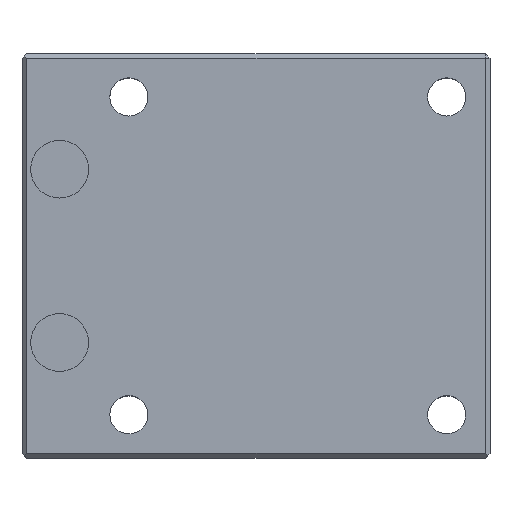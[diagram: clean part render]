
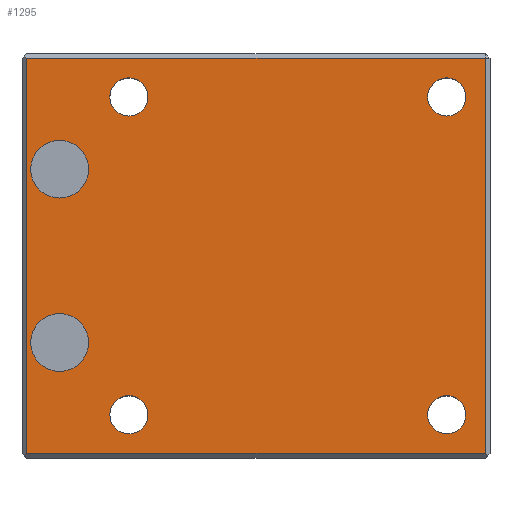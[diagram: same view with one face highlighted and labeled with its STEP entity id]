
A CAD part, top view. The second image highlights one B-rep face of the part: STEP entity #1295.
In plain terms, the highlighted planar face has unit normal (0, 0, 1).
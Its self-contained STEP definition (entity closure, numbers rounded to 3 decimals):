
#1 = ORIENTED_EDGE ( 'NONE', *, *, #1079, .F. ) ;
#12 = ORIENTED_EDGE ( 'NONE', *, *, #1841, .F. ) ;
#22 = CARTESIAN_POINT ( 'NONE',  ( 34.2, 34.2, 98. ) ) ;
#23 = ORIENTED_EDGE ( 'NONE', *, *, #1335, .F. ) ;
#27 = ORIENTED_EDGE ( 'NONE', *, *, #783, .F. ) ;
#34 = VERTEX_POINT ( 'NONE', #22 ) ;
#49 = CARTESIAN_POINT ( 'NONE',  ( -30.8, 27.5, 98. ) ) ;
#52 = EDGE_LOOP ( 'NONE', ( #12, #1 ) ) ;
#54 = FACE_BOUND ( 'NONE', #811, .T. ) ;
#77 = VERTEX_POINT ( 'NONE', #49 ) ;
#84 = CARTESIAN_POINT ( 'NONE',  ( 27.5, 27.5, 98. ) ) ;
#97 = AXIS2_PLACEMENT_3D ( 'NONE', #953, #790, #1450 ) ;
#107 = DIRECTION ( 'NONE',  ( 1., 0., 0. ) ) ;
#127 = AXIS2_PLACEMENT_3D ( 'NONE', #748, #1888, #2049 ) ;
#129 = DIRECTION ( 'NONE',  ( 0., 0., 1. ) ) ;
#138 = DIRECTION ( 'NONE',  ( 0., 0., 1. ) ) ;
#153 = DIRECTION ( 'NONE',  ( 0., 1., 0. ) ) ;
#158 = DIRECTION ( 'NONE',  ( 1., 0., 0. ) ) ;
#170 = CIRCLE ( 'NONE', #97, 3.3 ) ;
#182 = VERTEX_POINT ( 'NONE', #233 ) ;
#213 = EDGE_CURVE ( 'NONE', #1534, #1306, #2119, .T. ) ;
#233 = CARTESIAN_POINT ( 'NONE',  ( -45.2, -34.2, 98. ) ) ;
#244 = ORIENTED_EDGE ( 'NONE', *, *, #794, .T. ) ;
#245 = CARTESIAN_POINT ( 'NONE',  ( -34.5, -15., 98. ) ) ;
#248 = ORIENTED_EDGE ( 'NONE', *, *, #355, .F. ) ;
#279 = VERTEX_POINT ( 'NONE', #1783 ) ;
#287 = CIRCLE ( 'NONE', #1156, 3.3 ) ;
#291 = CARTESIAN_POINT ( 'NONE',  ( -39.5, 15., 98. ) ) ;
#297 = CARTESIAN_POINT ( 'NONE',  ( -27.5, 27.5, 98. ) ) ;
#299 = DIRECTION ( 'NONE',  ( 0., 0., 1. ) ) ;
#317 = EDGE_CURVE ( 'NONE', #1306, #1534, #1112, .T. ) ;
#321 = CIRCLE ( 'NONE', #1529, 3.3 ) ;
#355 = EDGE_CURVE ( 'NONE', #600, #77, #904, .T. ) ;
#360 = AXIS2_PLACEMENT_3D ( 'NONE', #2038, #1033, #1554 ) ;
#434 = CARTESIAN_POINT ( 'NONE',  ( -45.2, 34.2, 98. ) ) ;
#436 = VERTEX_POINT ( 'NONE', #523 ) ;
#441 = CARTESIAN_POINT ( 'NONE',  ( -24.2, 27.5, 98. ) ) ;
#451 = CARTESIAN_POINT ( 'NONE',  ( -44.5, -15., 98. ) ) ;
#506 = CARTESIAN_POINT ( 'NONE',  ( -27.5, -27.5, 98. ) ) ;
#515 = EDGE_LOOP ( 'NONE', ( #1904, #1507 ) ) ;
#523 = CARTESIAN_POINT ( 'NONE',  ( -44.5, 15., 98. ) ) ;
#535 = ORIENTED_EDGE ( 'NONE', *, *, #1613, .F. ) ;
#561 = AXIS2_PLACEMENT_3D ( 'NONE', #1788, #129, #1417 ) ;
#595 = DIRECTION ( 'NONE',  ( 1., 0., 0. ) ) ;
#600 = VERTEX_POINT ( 'NONE', #441 ) ;
#615 = DIRECTION ( 'NONE',  ( 1., 0., 0. ) ) ;
#638 = CARTESIAN_POINT ( 'NONE',  ( 30.8, -27.5, 98. ) ) ;
#651 = DIRECTION ( 'NONE',  ( 0., 0., 1. ) ) ;
#700 = DIRECTION ( 'NONE',  ( 0., 0., 1. ) ) ;
#718 = PLANE ( 'NONE',  #911 ) ;
#731 = DIRECTION ( 'NONE',  ( 0., 0., 1. ) ) ;
#741 = AXIS2_PLACEMENT_3D ( 'NONE', #291, #1242, #107 ) ;
#748 = CARTESIAN_POINT ( 'NONE',  ( -39.5, 15., 98. ) ) ;
#783 = EDGE_CURVE ( 'NONE', #77, #600, #321, .T. ) ;
#790 = DIRECTION ( 'NONE',  ( 0., 0., 1. ) ) ;
#794 = EDGE_CURVE ( 'NONE', #1467, #182, #1874, .T. ) ;
#811 = EDGE_LOOP ( 'NONE', ( #248, #27 ) ) ;
#820 = CIRCLE ( 'NONE', #360, 3.3 ) ;
#822 = VERTEX_POINT ( 'NONE', #1406 ) ;
#823 = EDGE_CURVE ( 'NONE', #1490, #436, #1702, .T. ) ;
#841 = ORIENTED_EDGE ( 'NONE', *, *, #2016, .T. ) ;
#862 = ORIENTED_EDGE ( 'NONE', *, *, #1385, .F. ) ;
#873 = VECTOR ( 'NONE', #1899, 1000. ) ;
#888 = FACE_OUTER_BOUND ( 'NONE', #951, .T. ) ;
#904 = CIRCLE ( 'NONE', #2047, 3.3 ) ;
#911 = AXIS2_PLACEMENT_3D ( 'NONE', #1043, #700, #1545 ) ;
#917 = CARTESIAN_POINT ( 'NONE',  ( 34.2, 35., 98. ) ) ;
#930 = CARTESIAN_POINT ( 'NONE',  ( -39.5, -15., 98. ) ) ;
#933 = CARTESIAN_POINT ( 'NONE',  ( -30.8, -27.5, 98. ) ) ;
#951 = EDGE_LOOP ( 'NONE', ( #244, #1448, #1548, #841 ) ) ;
#953 = CARTESIAN_POINT ( 'NONE',  ( 27.5, -27.5, 98. ) ) ;
#973 = AXIS2_PLACEMENT_3D ( 'NONE', #1375, #1236, #2033 ) ;
#1012 = VECTOR ( 'NONE', #595, 1000. ) ;
#1033 = DIRECTION ( 'NONE',  ( 0., 0., 1. ) ) ;
#1038 = AXIS2_PLACEMENT_3D ( 'NONE', #930, #1588, #158 ) ;
#1043 = CARTESIAN_POINT ( 'NONE',  ( 0., 0., 98. ) ) ;
#1073 = LINE ( 'NONE', #917, #1684 ) ;
#1076 = EDGE_LOOP ( 'NONE', ( #23, #1628 ) ) ;
#1077 = CARTESIAN_POINT ( 'NONE',  ( -45.2, -34.2, 98. ) ) ;
#1079 = EDGE_CURVE ( 'NONE', #1337, #822, #287, .T. ) ;
#1086 = VECTOR ( 'NONE', #1926, 1000. ) ;
#1105 = VERTEX_POINT ( 'NONE', #1508 ) ;
#1112 = CIRCLE ( 'NONE', #1038, 5. ) ;
#1156 = AXIS2_PLACEMENT_3D ( 'NONE', #506, #651, #1635 ) ;
#1236 = DIRECTION ( 'NONE',  ( 0., 0., 1. ) ) ;
#1242 = DIRECTION ( 'NONE',  ( 0., 0., 1. ) ) ;
#1245 = DIRECTION ( 'NONE',  ( 1., 0., 0. ) ) ;
#1281 = ORIENTED_EDGE ( 'NONE', *, *, #1408, .F. ) ;
#1283 = CARTESIAN_POINT ( 'NONE',  ( -46., 34.2, 98. ) ) ;
#1295 = ADVANCED_FACE ( 'NONE', ( #1403, #1368, #1524, #1871, #2069, #54, #888 ), #718, .T. ) ;
#1306 = VERTEX_POINT ( 'NONE', #245 ) ;
#1307 = EDGE_CURVE ( 'NONE', #1709, #279, #1504, .T. ) ;
#1335 = EDGE_CURVE ( 'NONE', #279, #1709, #1565, .T. ) ;
#1337 = VERTEX_POINT ( 'NONE', #933 ) ;
#1356 = AXIS2_PLACEMENT_3D ( 'NONE', #84, #731, #1392 ) ;
#1368 = FACE_BOUND ( 'NONE', #515, .T. ) ;
#1375 = CARTESIAN_POINT ( 'NONE',  ( -39.5, -15., 98. ) ) ;
#1385 = EDGE_CURVE ( 'NONE', #1478, #1718, #1678, .T. ) ;
#1392 = DIRECTION ( 'NONE',  ( 1., 0., 0. ) ) ;
#1400 = EDGE_CURVE ( 'NONE', #182, #1105, #2111, .T. ) ;
#1403 = FACE_BOUND ( 'NONE', #1779, .T. ) ;
#1406 = CARTESIAN_POINT ( 'NONE',  ( -24.2, -27.5, 98. ) ) ;
#1408 = EDGE_CURVE ( 'NONE', #436, #1490, #1740, .T. ) ;
#1417 = DIRECTION ( 'NONE',  ( 1., 0., 0. ) ) ;
#1448 = ORIENTED_EDGE ( 'NONE', *, *, #1400, .T. ) ;
#1450 = DIRECTION ( 'NONE',  ( 1., 0., 0. ) ) ;
#1467 = VERTEX_POINT ( 'NONE', #434 ) ;
#1478 = VERTEX_POINT ( 'NONE', #638 ) ;
#1483 = CARTESIAN_POINT ( 'NONE',  ( 24.2, 27.5, 98. ) ) ;
#1490 = VERTEX_POINT ( 'NONE', #1800 ) ;
#1504 = CIRCLE ( 'NONE', #1356, 3.3 ) ;
#1507 = ORIENTED_EDGE ( 'NONE', *, *, #213, .F. ) ;
#1508 = CARTESIAN_POINT ( 'NONE',  ( 34.2, -34.2, 98. ) ) ;
#1510 = CARTESIAN_POINT ( 'NONE',  ( -27.5, 27.5, 98. ) ) ;
#1524 = FACE_BOUND ( 'NONE', #52, .T. ) ;
#1529 = AXIS2_PLACEMENT_3D ( 'NONE', #1510, #1571, #1245 ) ;
#1534 = VERTEX_POINT ( 'NONE', #451 ) ;
#1545 = DIRECTION ( 'NONE',  ( 1., 0., 0. ) ) ;
#1548 = ORIENTED_EDGE ( 'NONE', *, *, #1945, .T. ) ;
#1554 = DIRECTION ( 'NONE',  ( 1., 0., 0. ) ) ;
#1565 = CIRCLE ( 'NONE', #2125, 3.3 ) ;
#1571 = DIRECTION ( 'NONE',  ( 0., 0., 1. ) ) ;
#1575 = CARTESIAN_POINT ( 'NONE',  ( 34.2, -34.2, 98. ) ) ;
#1588 = DIRECTION ( 'NONE',  ( 0., 0., 1. ) ) ;
#1609 = LINE ( 'NONE', #1283, #1086 ) ;
#1613 = EDGE_CURVE ( 'NONE', #1718, #1478, #170, .T. ) ;
#1628 = ORIENTED_EDGE ( 'NONE', *, *, #1307, .F. ) ;
#1635 = DIRECTION ( 'NONE',  ( 1., 0., 0. ) ) ;
#1651 = CARTESIAN_POINT ( 'NONE',  ( 24.2, -27.5, 98. ) ) ;
#1678 = CIRCLE ( 'NONE', #561, 3.3 ) ;
#1684 = VECTOR ( 'NONE', #153, 1000. ) ;
#1702 = CIRCLE ( 'NONE', #127, 5. ) ;
#1709 = VERTEX_POINT ( 'NONE', #1483 ) ;
#1718 = VERTEX_POINT ( 'NONE', #1651 ) ;
#1728 = EDGE_LOOP ( 'NONE', ( #862, #535 ) ) ;
#1740 = CIRCLE ( 'NONE', #741, 5. ) ;
#1761 = CARTESIAN_POINT ( 'NONE',  ( 27.5, 27.5, 98. ) ) ;
#1779 = EDGE_LOOP ( 'NONE', ( #1889, #1281 ) ) ;
#1783 = CARTESIAN_POINT ( 'NONE',  ( 30.8, 27.5, 98. ) ) ;
#1788 = CARTESIAN_POINT ( 'NONE',  ( 27.5, -27.5, 98. ) ) ;
#1800 = CARTESIAN_POINT ( 'NONE',  ( -34.5, 15., 98. ) ) ;
#1841 = EDGE_CURVE ( 'NONE', #822, #1337, #820, .T. ) ;
#1871 = FACE_BOUND ( 'NONE', #1076, .T. ) ;
#1874 = LINE ( 'NONE', #1077, #873 ) ;
#1888 = DIRECTION ( 'NONE',  ( 0., 0., 1. ) ) ;
#1889 = ORIENTED_EDGE ( 'NONE', *, *, #823, .F. ) ;
#1899 = DIRECTION ( 'NONE',  ( 0., -1., 0. ) ) ;
#1904 = ORIENTED_EDGE ( 'NONE', *, *, #317, .F. ) ;
#1926 = DIRECTION ( 'NONE',  ( -1., 0., 0. ) ) ;
#1945 = EDGE_CURVE ( 'NONE', #1105, #34, #1073, .T. ) ;
#1948 = DIRECTION ( 'NONE',  ( 1., 0., 0. ) ) ;
#2016 = EDGE_CURVE ( 'NONE', #34, #1467, #1609, .T. ) ;
#2033 = DIRECTION ( 'NONE',  ( 1., 0., 0. ) ) ;
#2038 = CARTESIAN_POINT ( 'NONE',  ( -27.5, -27.5, 98. ) ) ;
#2047 = AXIS2_PLACEMENT_3D ( 'NONE', #297, #138, #615 ) ;
#2049 = DIRECTION ( 'NONE',  ( 1., 0., 0. ) ) ;
#2069 = FACE_BOUND ( 'NONE', #1728, .T. ) ;
#2111 = LINE ( 'NONE', #1575, #1012 ) ;
#2119 = CIRCLE ( 'NONE', #973, 5. ) ;
#2125 = AXIS2_PLACEMENT_3D ( 'NONE', #1761, #299, #1948 ) ;
